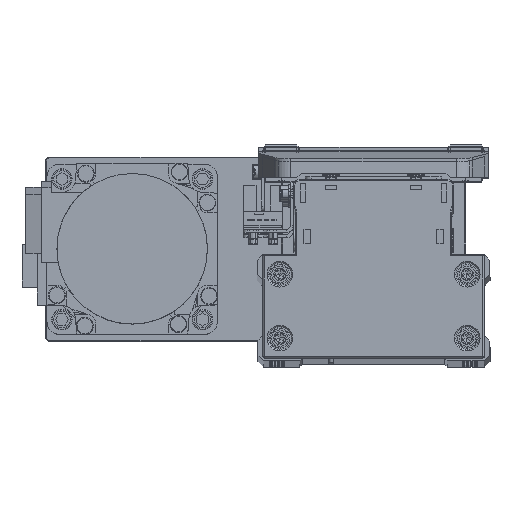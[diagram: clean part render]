
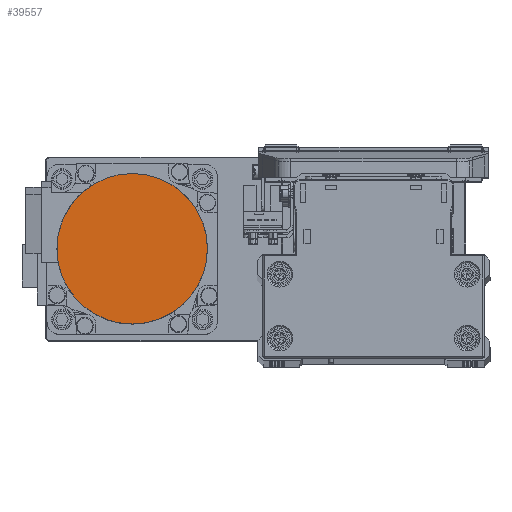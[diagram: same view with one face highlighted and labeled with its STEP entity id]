
A CAD part, top view. The second image highlights one B-rep face of the part: STEP entity #39557.
In plain terms, the highlighted planar face has unit normal (0, 0, 1) as drawn and (0, 0, -1) by its records, which use the part's own axes.
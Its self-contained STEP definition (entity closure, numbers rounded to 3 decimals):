
#1406 = CARTESIAN_POINT ( 'NONE',  ( 0., 0., -109.7 ) ) ;
#4659 = DIRECTION ( 'NONE',  ( 0., 0., 1. ) ) ;
#5017 = VERTEX_POINT ( 'NONE', #6505 ) ;
#6505 = CARTESIAN_POINT ( 'NONE',  ( -26.5, 0., -109.7 ) ) ;
#7934 = EDGE_LOOP ( 'NONE', ( #19795, #40597 ) ) ;
#8112 = DIRECTION ( 'NONE',  ( 0., 0., 1. ) ) ;
#8362 = AXIS2_PLACEMENT_3D ( 'NONE', #1406, #14295, #27174 ) ;
#14295 = DIRECTION ( 'NONE',  ( 0., 0., 1. ) ) ;
#17454 = FACE_OUTER_BOUND ( 'NONE', #7934, .T. ) ;
#17528 = DIRECTION ( 'NONE',  ( -1., 0., 0. ) ) ;
#18851 = EDGE_CURVE ( 'NONE', #5017, #27109, #35888, .T. ) ;
#19795 = ORIENTED_EDGE ( 'NONE', *, *, #18851, .F. ) ;
#20985 = DIRECTION ( 'NONE',  ( 1., 0., 0. ) ) ;
#22737 = CARTESIAN_POINT ( 'NONE',  ( 26.5, 0., -109.7 ) ) ;
#23195 = AXIS2_PLACEMENT_3D ( 'NONE', #37058, #8112, #20985 ) ;
#26177 = EDGE_CURVE ( 'NONE', #27109, #5017, #41411, .T. ) ;
#27109 = VERTEX_POINT ( 'NONE', #22737 ) ;
#27174 = DIRECTION ( 'NONE',  ( 1., 0., 0. ) ) ;
#30341 = PLANE ( 'NONE',  #8362 ) ;
#33587 = CARTESIAN_POINT ( 'NONE',  ( 0., 0., -109.7 ) ) ;
#35888 = CIRCLE ( 'NONE', #41294, 26.5 ) ;
#37058 = CARTESIAN_POINT ( 'NONE',  ( 0., 0., -109.7 ) ) ;
#39557 = ADVANCED_FACE ( 'NONE', ( #17454 ), #30341, .F. ) ;
#40597 = ORIENTED_EDGE ( 'NONE', *, *, #26177, .F. ) ;
#41294 = AXIS2_PLACEMENT_3D ( 'NONE', #33587, #4659, #17528 ) ;
#41411 = CIRCLE ( 'NONE', #23195, 26.5 ) ;
